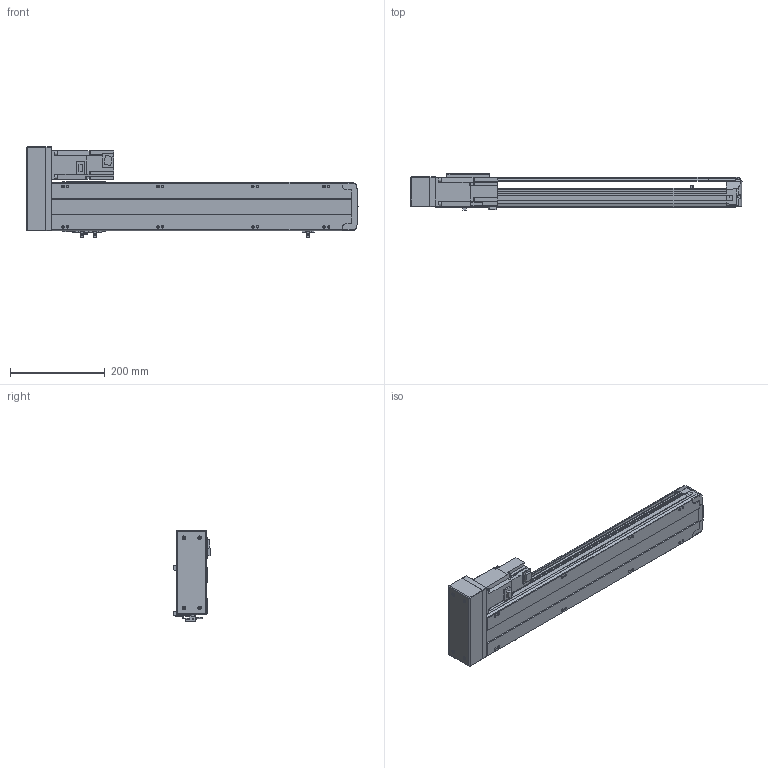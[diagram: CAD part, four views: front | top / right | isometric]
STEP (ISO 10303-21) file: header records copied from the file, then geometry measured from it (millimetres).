
FILE_DESCRIPTION( ( 'STEP AP214' ), '1' );
FILE_NAME( 'x:/temp/worker_27/temp/exporttempdir_6708_83_jvh3T/format_0/PSS120-L10-S450-BL-T40-C1-N(0).stp', '2022-06-06T00:28:22', ( 'License CC BY-ND 4.0' ), ( 'CADENAS' ), ' ', 'PARTsolutions', ' ' );
FILE_SCHEMA( ( 'AUTOMOTIVE_DESIGN { 1 0 10303 214 1 1 1 1 }' ) );
Length unit declared in the file: millimetre
Products named in the file (8): PSS120-L10-S450-BL-T40-C1-N(0); _PSS120-S450-BL-C1-N_body; _PSS120-N_Q; _PSS120-BL-C1-N_sl; _PSS120-N_sensor; _PSS120BL-N_h; _T40-p1; _PSS120-S450-BL-N_S
Assembly tree (9 placements, depth 2):
  PSS120-L10-S450-BL-T40-C1-N(0)
    _PSS120-S450-BL-C1-N_body
    _PSS120-N_Q
    _PSS120-BL-C1-N_sl
    _PSS120-N_sensor  x3
    _PSS120BL-N_h
    _T40-p1
    _PSS120-S450-BL-N_S
Bounding box: 699.35 x 76.8 x 191.2 mm (x, y, z)
Volume: 3056745 mm3; surface area: 514259.9 mm2
Topology: 9 solids, 9 shells, 816 faces, 2189 edges, 1448 vertices
Faces by surface type: plane 583, cylinder 213, cone 16, sphere 4
Full cylindrical faces by diameter (mm): 2.8 x3, 4 x4, 4.134 x12, 4.4 x2, 4.5 x4, 4.6 x3, 5 x6, 5.5 x15, 7 x2, 7.4 x4, 8 x4, 8.5 x12, 14 x1, 28 x1, 32 x2, 50 x1
Entity records: 27901 total; most frequent: CARTESIAN_POINT 4275, DIRECTION 3655, ORIENTED_EDGE 3586, EDGE_CURVE 1793, LINE 1303, VECTOR 1303, VERTEX_POINT 1236, AXIS2_PLACEMENT_3D 1176
